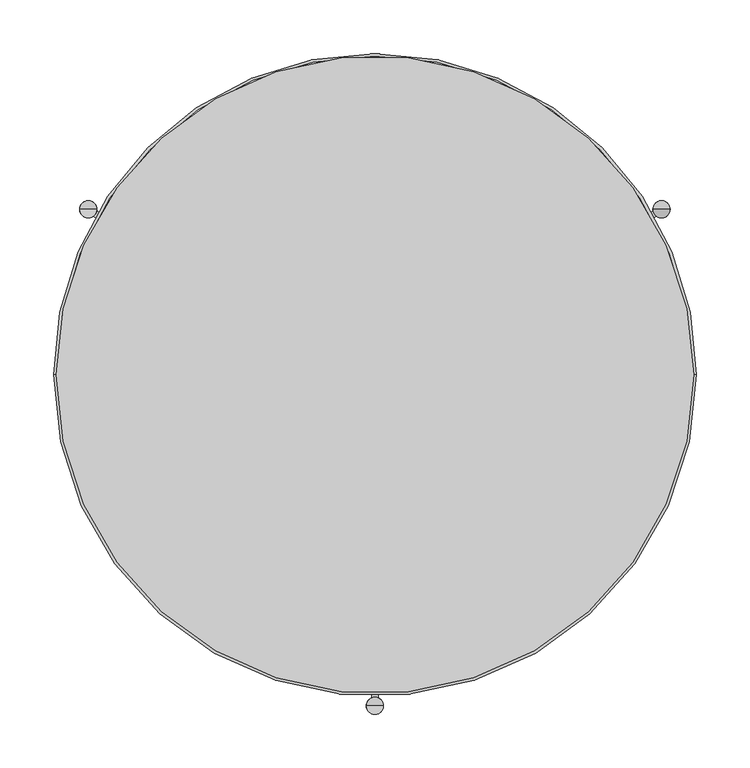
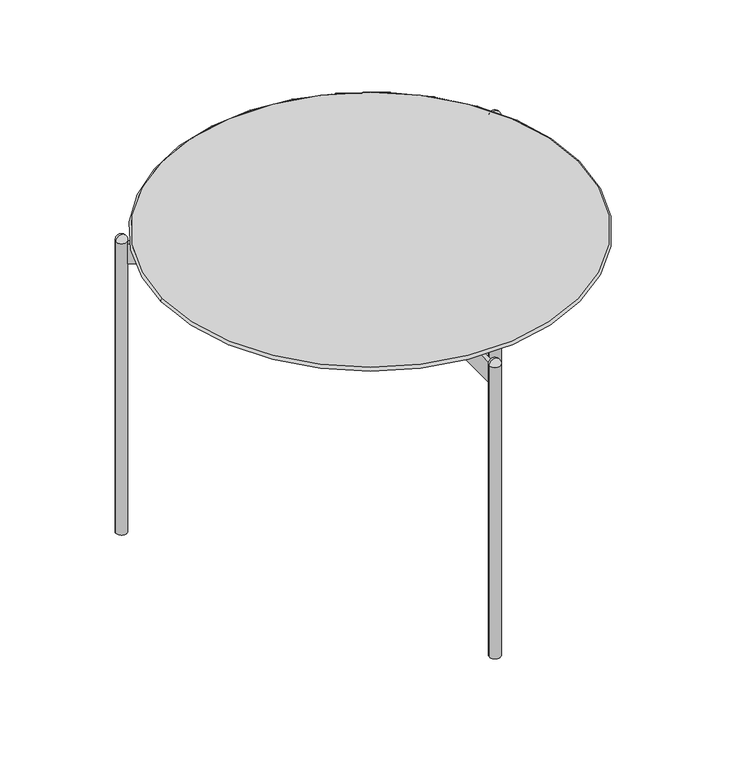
"""IFC4 building model written with IfcOpenShell, lengths in millimetres: furniture geometry, ROUND TABLE_H=45 : EI145B050060A_L."""

import ifcopenshell
import ifcopenshell.guid

model = None  # the IFC model being written
_history = None  # IfcOwnerHistory: only IFC2X3 demands one
_inside = {}  # id of a spatial element -> (the spatial element, [elements in it])
_under = {}  # id of a project, library or spatial element -> (it, [spatial elements below it])
_declared = {}  # id of a project -> (the project, [libraries it declares])
_typed = {}  # id of a type object -> (the type object, [elements of that type])
_made_of = {}  # id of a material, layer set ... -> (it, [elements and type objects made of it])


def new_model(schema):
    """Start an empty IFC model of exactly this schema.

    Asked for "IFC4X3", IfcOpenShell would pick the latest addendum, in which some entities
    have other attributes; the version numbers below select the first issue.
    IFC2X3 requires an IfcOwnerHistory on every rooted entity: one is made here for all.
    """
    global model, _history
    if schema == "IFC4X3":
        model = ifcopenshell.file(schema_version=(4, 3, 0, 0))
    else:
        model = ifcopenshell.file(schema=schema)
    _inside.clear()
    _under.clear()
    _declared.clear()
    _typed.clear()
    _made_of.clear()
    _history = None
    if model.schema == "IFC2X3":
        org = make("IfcOrganization", Name="unknown")
        user = make(
            "IfcPersonAndOrganization",
            ThePerson=make("IfcPerson", FamilyName="unknown"),
            TheOrganization=org,
        )
        app = make(
            "IfcApplication",
            ApplicationDeveloper=org,
            Version="unknown",
            ApplicationFullName="unknown",
            ApplicationIdentifier="unknown",
        )
        _history = make(
            "IfcOwnerHistory",
            OwningUser=user,
            OwningApplication=app,
            ChangeAction="ADDED",
            CreationDate=0,
        )
    return model


def make(cls, **values):
    """One entity of the class cls with the attributes given. An attribute that is None is left unset."""
    return model.create_entity(
        cls, **{name: value for name, value in values.items() if value is not None}
    )


def rooted(cls, **values):
    """An entity with a GlobalId (a new one), such as an element, a storey or a relation."""
    return make(cls, GlobalId=ifcopenshell.guid.new(), OwnerHistory=_history, **values)


def si_unit(unit_type, name, prefix=None):
    """IfcSIUnit, for example si_unit("LENGTHUNIT", "METRE", prefix="MILLI")."""
    return make("IfcSIUnit", UnitType=unit_type, Prefix=prefix, Name=name)


def assignment(units):
    """IfcUnitAssignment: the units of a project."""
    return None if units is None else make("IfcUnitAssignment", Units=units)


def point(xyz):
    """IfcCartesianPoint."""
    return None if xyz is None else make("IfcCartesianPoint", Coordinates=xyz)


def direction(xyz):
    """IfcDirection."""
    return None if xyz is None else make("IfcDirection", DirectionRatios=xyz)


def frame(location, z_axis=None, x_axis=None):
    """IfcAxis2Placement3D, a coordinate frame: its origin and axes. An axis left out is left unset."""
    return make(
        "IfcAxis2Placement3D",
        Location=point(location),
        Axis=direction(z_axis),
        RefDirection=direction(x_axis),
    )


def frame_2d(location, x_axis=None):
    """IfcAxis2Placement2D, a coordinate frame in the plane: its origin and x axis."""
    return make(
        "IfcAxis2Placement2D", Location=point(location), RefDirection=direction(x_axis)
    )


def origin():
    """The frame at (0, 0, 0) with its axes left unset."""
    return frame((0.0, 0.0, 0.0))


def origin_with_axes():
    """The frame at (0, 0, 0) with the z axis (0, 0, 1) and the x axis (1, 0, 0) written out."""
    return frame((0.0, 0.0, 0.0), z_axis=(0.0, 0.0, 1.0), x_axis=(1.0, 0.0, 0.0))


def origin_2d():
    """The frame at (0, 0) in the plane with its x axis left unset."""
    return frame_2d((0.0, 0.0))


def place(relative_to, where):
    """IfcLocalPlacement: puts the frame where relative to a parent placement (None: the world)."""
    return make(
        "IfcLocalPlacement", PlacementRelTo=relative_to, RelativePlacement=where
    )


def context(
    kind, dimensions, precision=None, world=None, true_north=None, identifier=None
):
    """IfcGeometricRepresentationContext, for example the 3D "Model" context."""
    return make(
        "IfcGeometricRepresentationContext",
        ContextIdentifier=identifier,
        ContextType=kind,
        CoordinateSpaceDimension=dimensions,
        Precision=precision,
        WorldCoordinateSystem=world,
        TrueNorth=true_north,
    )


def project(units=None, contexts=None):
    """IfcProject with its units and contexts."""
    return rooted(
        "IfcProject",
        Name="project",
        RepresentationContexts=contexts,
        UnitsInContext=assignment(units),
    )


def spatial(cls, under=None, at=None, **own):
    """A site, building, storey or space (cls), placed at a placement, below another one or the project."""
    s = rooted(cls, ObjectPlacement=at, **own)
    if under is not None:
        _under.setdefault(under.id(), (under, []))[1].append(s)
    return s


def polyline(points):
    """IfcPolyline through the points."""
    return make("IfcPolyline", Points=[point(p) for p in points])


def circle_curve(where, radius):
    """IfcCircle in the frame where."""
    return make("IfcCircle", Position=where, Radius=radius)


def ellipse_curve(where, semi_axis1, semi_axis2):
    """IfcEllipse in the frame where."""
    return make(
        "IfcEllipse", Position=where, SemiAxis1=semi_axis1, SemiAxis2=semi_axis2
    )


def trimmed(basis, trim1, trim2, sense, master):
    """IfcTrimmedCurve: the piece of a basis curve between two trims."""
    return make(
        "IfcTrimmedCurve",
        BasisCurve=basis,
        Trim1=trim1,
        Trim2=trim2,
        SenseAgreement=sense,
        MasterRepresentation=master,
    )


def segment(curve, same_sense, transition):
    """IfcCompositeCurveSegment."""
    return make(
        "IfcCompositeCurveSegment",
        Transition=transition,
        SameSense=same_sense,
        ParentCurve=curve,
    )


def composite_curve(segments, self_intersect=None):
    """IfcCompositeCurve: segments joined end to end."""
    return make("IfcCompositeCurve", Segments=segments, SelfIntersect=self_intersect)


def outline(outer, holes=None, kind="AREA"):
    """IfcArbitraryClosedProfileDef: a profile drawn as a closed curve; with holes, ...WithVoids."""
    if holes is None:
        return make("IfcArbitraryClosedProfileDef", ProfileType=kind, OuterCurve=outer)
    return make(
        "IfcArbitraryProfileDefWithVoids",
        ProfileType=kind,
        OuterCurve=outer,
        InnerCurves=holes,
    )


def extrude(swept, where, along, depth):
    """IfcExtrudedAreaSolid: the profile swept, set in the frame where, extruded along a direction by depth."""
    return make(
        "IfcExtrudedAreaSolid",
        SweptArea=swept,
        Position=where,
        ExtrudedDirection=direction(along),
        Depth=depth,
    )


def shape(context_of_items, identifier, shape_type, items):
    """IfcShapeRepresentation: the items that make up one representation, for example the "Body"."""
    return make(
        "IfcShapeRepresentation",
        ContextOfItems=context_of_items,
        RepresentationIdentifier=identifier,
        RepresentationType=shape_type,
        Items=items,
    )


def source(mapping_origin, context_of_items, identifier, shape_type, items):
    """IfcRepresentationMap: a shape defined once, which mapped items show again and again."""
    return make(
        "IfcRepresentationMap",
        MappingOrigin=mapping_origin,
        MappedRepresentation=shape(context_of_items, identifier, shape_type, items),
    )


def transform(
    local_origin,
    x_axis=None,
    y_axis=None,
    z_axis=None,
    scale=None,
    scale2=None,
    scale3=None,
    uniform=True,
):
    """IfcCartesianTransformationOperator3D, or its non-uniform kind. x_axis, y_axis, z_axis: its Axis1, 2, 3."""
    if uniform:
        return make(
            "IfcCartesianTransformationOperator3D",
            Axis1=direction(x_axis),
            Axis2=direction(y_axis),
            LocalOrigin=point(local_origin),
            Scale=scale,
            Axis3=direction(z_axis),
        )
    return make(
        "IfcCartesianTransformationOperator3DnonUniform",
        Axis1=direction(x_axis),
        Axis2=direction(y_axis),
        LocalOrigin=point(local_origin),
        Scale=scale,
        Axis3=direction(z_axis),
        Scale2=scale2,
        Scale3=scale3,
    )


def mapped(mapping_source, mapping_target):
    """IfcMappedItem: shows the shape of a source again, moved by a transform."""
    return make(
        "IfcMappedItem", MappingSource=mapping_source, MappingTarget=mapping_target
    )


def made_of(thing, what):
    """Note that an element or type object is made of a material, layer set ...; save() writes the relation."""
    if what is not None:
        _made_of.setdefault(what.id(), (what, []))[1].append(thing)
    return thing


def element(
    cls,
    number,
    at=None,
    inside=None,
    cuts=None,
    type_object=None,
    material=None,
    context=None,
    identifier="Body",
    shape_type=None,
    held_by="IfcProductDefinitionShape",
    body=None,
    shapes=None,
    **own,
):
    """One element of the class cls, such as IfcWall. Its Tag is "e" and its number.

    at: its placement. inside: the storey or other place that contains it. cuts: it is an
    opening in that element (IfcRelVoidsElement). A single representation is given by context,
    identifier, shape_type and body (its items); several are given by shapes. held_by: the class
    of the entity that holds the representations. save() writes the other relations.
    """
    e = rooted(cls, Tag="e%d" % number, ObjectPlacement=at, **own)
    if body is not None:
        shapes = [shape(context, identifier, shape_type, body)]
    if shapes is not None:
        e.Representation = make(held_by, Representations=shapes)
    if inside is not None:
        _inside.setdefault(inside.id(), (inside, []))[1].append(e)
    if cuts is not None:
        rooted(
            "IfcRelVoidsElement", RelatingBuildingElement=cuts, RelatedOpeningElement=e
        )
    if type_object is not None:
        _typed.setdefault(type_object.id(), (type_object, []))[1].append(e)
    return made_of(e, material)


def aggregate(whole, parts):
    """IfcRelAggregates: a whole, such as a stair, and the parts it consists of."""
    return rooted("IfcRelAggregates", RelatingObject=whole, RelatedObjects=parts)


def save(model, path):
    """Write the relations noted so far, then the file.

    IfcRelAggregates (storeys below a building ...), IfcRelContainedInSpatialStructure (elements
    in a storey), IfcRelDefinesByType, IfcRelAssociatesMaterial and IfcRelDeclares: one each for
    every whole, place, type object, material and project.
    """
    for whole, parts in _under.values():
        aggregate(whole, parts)
    for where, things in _inside.values():
        rooted(
            "IfcRelContainedInSpatialStructure",
            RelatedElements=things,
            RelatingStructure=where,
        )
    for kind, things in _typed.values():
        rooted("IfcRelDefinesByType", RelatedObjects=things, RelatingType=kind)
    for what, things in _made_of.values():
        rooted("IfcRelAssociatesMaterial", RelatedObjects=things, RelatingMaterial=what)
    for by, libraries in _declared.values():
        rooted("IfcRelDeclares", RelatingContext=by, RelatedDefinitions=libraries)
    model.write(path)


def plane_surface(at):
    """IfcPlane: the flat surface through the origin of the frame at, square to its z axis."""
    return make("IfcPlane", Position=at)


def revolved_surface(curve, axis_point, axis_direction):
    """IfcSurfaceOfRevolution: the curve turned about the line through axis_point along axis_direction."""
    return make(
        "IfcSurfaceOfRevolution",
        SweptCurve=make("IfcArbitraryOpenProfileDef", ProfileType="CURVE", Curve=curve),
        AxisPosition=make("IfcAxis1Placement", Location=point(axis_point), Axis=direction(axis_direction)),
    )


def advanced_brep(points, edges, surfaces, faces):
    """IfcAdvancedBrep: a solid bounded by faces that lie on surfaces and meet in shared edges.

    An edge is (start, end): straight between two places in points (the first is 0);
    or (start, end, curve); or (start, end, curve, False) where it runs against its curve.
    A face is (place in surfaces, loops), or (place, loops, False) where it looks against
    its surface's normal. A loop lists edges by number (the first is 1), with a minus sign
    where the edge is run from its end to its start. The first loop is the outer one.
    """
    corners = [point(p) for p in points]
    vertices = [make("IfcVertexPoint", VertexGeometry=c) for c in corners]
    made = []
    for start, end, *more in edges:
        made.append(
            make(
                "IfcEdgeCurve",
                EdgeStart=vertices[start],
                EdgeEnd=vertices[end],
                EdgeGeometry=more[0] if more else make("IfcPolyline", Points=[corners[start], corners[end]]),
                SameSense=more[1] if len(more) > 1 else True,
            )
        )
    hull = []
    for where, loops, *sense in faces:
        bounds = []
        for j, loop in enumerate(loops):
            ring = [make("IfcOrientedEdge", EdgeElement=made[abs(k) - 1], Orientation=k > 0) for k in loop]
            bounds.append(
                make(
                    "IfcFaceOuterBound" if j == 0 else "IfcFaceBound",
                    Bound=make("IfcEdgeLoop", EdgeList=ring),
                    Orientation=True,
                )
            )
        hull.append(make("IfcAdvancedFace", Bounds=bounds, FaceSurface=surfaces[where], SameSense=sense[0] if sense else True))
    return make("IfcAdvancedBrep", Outer=make("IfcClosedShell", CfsFaces=hull))


def furniture_a62885bd(model_context):
    return source(origin(), model_context, "Body", "SolidModel", [
        advanced_brep(
        [(-297.5, 0.0, 456.6939464), (297.5, 0.0, 456.6939464), (271.7931495, 0.0, 437.6939464), (-271.7931495, 0.0, 437.6939464), (-298.6736789, 0.0, 451.9865774), (298.6736789, 0.0, 451.9865774), (300.0, 0.0, 454.1939714), (-300.0, 0.0, 454.1939716)],
        [
            (0, 1, circle_curve(frame((0.0, 0.0, 456.6939464), z_axis=(0.0, 0.0, 1.0), x_axis=(-1.0, 0.0, 0.0)), 297.5)),
            (1, 0, circle_curve(frame((0.0, 0.0, 456.6939464), z_axis=(0.0, 0.0, 1.0), x_axis=(1.0, 0.0, 0.0)), 297.5)),
            (2, 3, circle_curve(frame((0.0, 0.0, 437.6939464), z_axis=(0.0, 0.0, -1.0), x_axis=(-1.0, 0.0, 0.0)), 271.7931495)),
            (3, 2, circle_curve(frame((0.0, 0.0, 437.6939464), z_axis=(0.0, 0.0, -1.0), x_axis=(1.0, 0.0, 0.0)), 271.7931495)),
            (4, 5, circle_curve(frame((0.0, 0.0, 451.9865774), z_axis=(0.0, 0.0, 1.0), x_axis=(-1.0, 0.0, 0.0)), 298.6736789)),
            (5, 6, circle_curve(frame((297.5, 0.0, 454.1939464), z_axis=(0.0, -1.0, 0.0), x_axis=(-1.0, 0.0, 0.0)), 2.5)),
            (6, 1, circle_curve(frame((297.5, 0.0, 454.1939464), z_axis=(0.0, -1.0, 0.0), x_axis=(-1.0, 0.0, 0.0)), 2.5)),
            (0, 7, circle_curve(frame((-297.5, 0.0, 454.1939464), z_axis=(0.0, -1.0, 0.0), x_axis=(1.0, 0.0, 0.0)), 2.5)),
            (7, 4, circle_curve(frame((-297.5, 0.0, 454.1939464), z_axis=(0.0, -1.0, 0.0), x_axis=(1.0, 0.0, 0.0)), 2.5)),
            (4, 3),
            (2, 5),
            (5, 4, circle_curve(frame((0.0, 0.0, 451.9865774), z_axis=(0.0, 0.0, 1.0), x_axis=(1.0, 0.0, 0.0)), 298.6736789)),
        ],
        [
            plane_surface(frame((300.0, 0.0, 456.6939464), z_axis=(0.0, 0.0, 1.0), x_axis=(0.0, 1.0, 0.0))),
            plane_surface(frame((300.0, 0.0, 437.6939464), z_axis=(0.0, 0.0, -1.0), x_axis=(0.0, -1.0, 0.0))),
            revolved_surface(trimmed(ellipse_curve(frame((-297.5, 0.0, 454.1939464), z_axis=(0.0, 1.0, 0.0), x_axis=(1.0, 0.0, 0.0)), 2.5, 2.5), [point((-298.6736789, 0.0, 451.9865774))], [point((-297.5, 0.0, 456.6939464))], True, "CARTESIAN"), (0.0, 0.0, 437.6939464), (0.0, 0.0, 1.0)),
            revolved_surface(polyline([(-271.7931495, 0.0, 437.6939464), (-298.6736789, 0.0, 451.9865774)]), (0.0, 0.0, 437.6939464), (0.0, 0.0, 1.0)),
            revolved_surface(trimmed(ellipse_curve(frame((297.5, 0.0, 454.1939464), z_axis=(0.0, -1.0, 0.0), x_axis=(-1.0, 0.0, 0.0)), 2.5, 2.5), [point((298.6736789, 0.0, 451.9865774))], [point((297.5, 0.0, 456.6939464))], True, "CARTESIAN"), (0.0, 0.0, 437.6939464), (0.0, 0.0, 1.0)),
            revolved_surface(polyline([(271.7931495, 0.0, 437.6939464), (298.6736789, 0.0, 451.9865774)]), (0.0, 0.0, 437.6939464), (0.0, 0.0, 1.0)),
        ],
        [
            (0, [[1, 2]]),
            (1, [[3, 4]]),
            (2, [[5, 6, 7, -1, 8, 9]]),
            (3, [[-5, 10, -3, 11]]),
            (4, [[12, -9, -8, -2, -7, -6]]),
            (5, [[-11, -4, -10, -12]]),
        ],
    ),
        extrude(outline(composite_curve([segment(polyline([(-19.7129166, 7.9278768), (-262.7443334, 148.2421307)]), True, "CONTINUOUS"), segment(trimmed(circle_curve(frame_2d((-267.6, 154.6)), 8.0), [point((-262.7443334, 148.2421307))], [point((-259.6895089, 153.4066303))], True, "CARTESIAN"), True, "CONTINUOUS"), segment(polyline([(-259.6895089, 153.4066303), (-16.7129166, 13.1240293), (-19.7129166, 7.9278768)]), True, "CONTINUOUS")], self_intersect=False)), frame((0.0, 0.0, 407.6939464), z_axis=(0.0, 0.0, 1.0), x_axis=(1.0, 0.0, 0.0)), (0.0, 0.0, 1.0), 30.0),
        extrude(outline(composite_curve([segment(polyline([(19.7314855, 7.9171561), (16.7314855, 13.1133085), (259.6925075, 153.38692)]), True, "CONTINUOUS"), segment(trimmed(circle_curve(frame_2d((267.6, 154.6)), 8.0), [point((259.6925075, 153.38692))], [point((262.7603454, 148.2299338))], True, "CARTESIAN"), True, "CONTINUOUS"), segment(polyline([(262.7603454, 148.2299338), (19.7314855, 7.9171561)]), True, "CONTINUOUS")], self_intersect=False)), frame((0.0, 0.0, 407.6939464), z_axis=(0.0, 0.0, 1.0), x_axis=(1.0, 0.0, 0.0)), (0.0, 0.0, 1.0), 30.0),
        extrude(outline(composite_curve([segment(polyline([(3.0, -21.0411853), (3.0, -301.5838015)]), True, "CONTINUOUS"), segment(trimmed(circle_curve(frame_2d((0.0, -309.0)), 8.0), [point((3.0, -301.5838015))], [point((-3.0, -301.5838015))], True, "CARTESIAN"), True, "CONTINUOUS"), segment(polyline([(-3.0, -301.5838015), (-3.0, -21.0411853), (3.0, -21.0411853)]), True, "CONTINUOUS")], self_intersect=False)), frame((0.0, 0.0, 407.6939464), z_axis=(0.0, 0.0, 1.0), x_axis=(1.0, 0.0, 0.0)), (0.0, 0.0, 1.0), 30.0),
        advanced_brep(
        [(267.6, 154.6, 449.1666667), (259.6, 154.6, 441.1666667), (275.6, 154.6, 441.1666667), (267.6, 154.6, 441.1666667)],
        [
            (0, 1, circle_curve(frame((267.6, 154.6, 441.1666667), z_axis=(0.0, -1.0, 0.0), x_axis=(1.0, 0.0, 0.0)), 8.0)),
            (1, 2, circle_curve(frame((267.6, 154.6, 441.1666667), z_axis=(0.0, 0.0, 1.0), x_axis=(-1.0, 0.0, 0.0)), 8.0)),
            (2, 0, circle_curve(frame((267.6, 154.6, 441.1666667), z_axis=(0.0, -1.0, 0.0), x_axis=(-1.0, 0.0, 0.0)), 8.0)),
            (2, 1, circle_curve(frame((267.6, 154.6, 441.1666667), z_axis=(0.0, 0.0, 1.0), x_axis=(-1.0, 0.0, 0.0)), 8.0)),
            (1, 3),
            (3, 2),
        ],
        [
            revolved_surface(trimmed(ellipse_curve(frame((267.6, 154.6, 441.1666667), z_axis=(0.0, 1.0, 0.0), x_axis=(1.0, 0.0, 0.0)), 8.0, 8.0), [point((259.6, 154.6, 441.1666667))], [point((267.6, 154.6, 449.1666667))], True, "CARTESIAN"), (267.6, 154.6, 2638.4), (0.0, 0.0, 1.0)),
            plane_surface(frame((267.6, 154.6, 441.1666667), z_axis=(0.0, 0.0, -1.0), x_axis=(-1.0, 0.0, 0.0))),
        ],
        [
            (0, [[1, 2, 3]]),
            (0, [[-3, 4, -1]]),
            (1, [[-2, 5, 6]]),
            (1, [[-4, -6, -5]]),
        ],
    ),
        advanced_brep(
        [(267.6, 154.6, 449.1666667), (259.6, 154.6, 441.1666667), (275.6, 154.6, 441.1666667), (267.6, 154.6, 441.1666667)],
        [
            (0, 1, circle_curve(frame((267.6, 154.6, 441.1666667), z_axis=(0.0, -1.0, 0.0), x_axis=(1.0, 0.0, 0.0)), 8.0)),
            (1, 2, circle_curve(frame((267.6, 154.6, 441.1666667), z_axis=(0.0, 0.0, 1.0), x_axis=(-1.0, 0.0, 0.0)), 8.0)),
            (2, 0, circle_curve(frame((267.6, 154.6, 441.1666667), z_axis=(0.0, -1.0, 0.0), x_axis=(-1.0, 0.0, 0.0)), 8.0)),
            (2, 1, circle_curve(frame((267.6, 154.6, 441.1666667), z_axis=(0.0, 0.0, 1.0), x_axis=(-1.0, 0.0, 0.0)), 8.0)),
            (1, 3),
            (3, 2),
        ],
        [
            revolved_surface(trimmed(ellipse_curve(frame((267.6, 154.6, 441.1666667), z_axis=(0.0, 1.0, 0.0), x_axis=(1.0, 0.0, 0.0)), 8.0, 8.0), [point((259.6, 154.6, 441.1666667))], [point((267.6, 154.6, 449.1666667))], True, "CARTESIAN"), (267.6, 154.6, 2638.4), (0.0, 0.0, 1.0)),
            plane_surface(frame((267.6, 154.6, 441.1666667), z_axis=(0.0, 0.0, -1.0), x_axis=(-1.0, 0.0, 0.0))),
        ],
        [
            (0, [[1, 2, 3]]),
            (0, [[-3, 4, -1]]),
            (1, [[-2, 5, 6]]),
            (1, [[-4, -6, -5]]),
        ],
    ),
        advanced_brep(
        [(-275.6, 154.6, 441.1666667), (-259.6, 154.6, 441.1666667), (-267.6, 154.6, 449.1666667), (-267.6, 154.6, 441.1666667)],
        [
            (0, 1, circle_curve(frame((-267.6, 154.6, 441.1666667), z_axis=(0.0, 0.0, 1.0), x_axis=(1.0, 0.0, 0.0)), 8.0)),
            (1, 2, circle_curve(frame((-267.6, 154.6, 441.1666667), z_axis=(0.0, -1.0, 0.0), x_axis=(-1.0, 0.0, 0.0)), 8.0)),
            (2, 0, circle_curve(frame((-267.6, 154.6, 441.1666667), z_axis=(0.0, -1.0, 0.0), x_axis=(1.0, 0.0, 0.0)), 8.0)),
            (1, 0, circle_curve(frame((-267.6, 154.6, 441.1666667), z_axis=(0.0, 0.0, 1.0), x_axis=(1.0, 0.0, 0.0)), 8.0)),
            (3, 1),
            (0, 3),
        ],
        [
            revolved_surface(trimmed(ellipse_curve(frame((-267.6, 154.6, 441.1666667), z_axis=(0.0, 1.0, 0.0), x_axis=(-1.0, 0.0, 0.0)), 8.0, 8.0), [point((-267.6, 154.6, 449.1666667))], [point((-259.6, 154.6, 441.1666667))], True, "CARTESIAN"), (-267.6, 154.6, 2638.4), (0.0, 0.0, -1.0)),
            plane_surface(frame((-267.6, 154.6, 441.1666667), z_axis=(0.0, 0.0, -1.0), x_axis=(1.0, 0.0, 0.0))),
        ],
        [
            (0, [[1, 2, 3]]),
            (0, [[4, -3, -2]]),
            (1, [[5, -1, 6]]),
            (1, [[-6, -4, -5]]),
        ],
    ),
        advanced_brep(
        [(-8.025371, -309.0, 441.1666667), (7.974629, -309.0, 441.1666667), (-0.025371, -309.0, 449.1666667), (-0.025371, -309.0, 441.1666667)],
        [
            (0, 1, circle_curve(frame((-0.025371, -309.0, 441.1666667), z_axis=(0.0, 0.0, 1.0), x_axis=(1.0, 0.0, 0.0)), 8.0)),
            (1, 2, circle_curve(frame((-0.025371, -309.0, 441.1666667), z_axis=(0.0, -1.0, 0.0), x_axis=(-1.0, 0.0, 0.0)), 8.0)),
            (2, 0, circle_curve(frame((-0.025371, -309.0, 441.1666667), z_axis=(0.0, -1.0, 0.0), x_axis=(1.0, 0.0, 0.0)), 8.0)),
            (1, 0, circle_curve(frame((-0.025371, -309.0, 441.1666667), z_axis=(0.0, 0.0, 1.0), x_axis=(1.0, 0.0, 0.0)), 8.0)),
            (3, 1),
            (0, 3),
        ],
        [
            revolved_surface(trimmed(ellipse_curve(frame((-0.025371, -309.0, 441.1666667), z_axis=(0.0, 1.0, 0.0), x_axis=(-1.0, 0.0, 0.0)), 8.0, 8.0), [point((-0.025371, -309.0, 449.1666667))], [point((7.974629, -309.0, 441.1666667))], True, "CARTESIAN"), (-0.025371, -309.0, 2638.4), (0.0, 0.0, -1.0)),
            plane_surface(frame((-0.025371, -309.0, 441.1666667), z_axis=(0.0, 0.0, -1.0), x_axis=(1.0, 0.0, 0.0))),
        ],
        [
            (0, [[1, 2, 3]]),
            (0, [[4, -3, -2]]),
            (1, [[5, -1, 6]]),
            (1, [[-6, -4, -5]]),
        ],
    ),
        extrude(outline(composite_curve([segment(trimmed(circle_curve(origin_2d(), 23.0), [point((-23.0, 0.0))], [point((23.0, 0.0))], False, "CARTESIAN"), True, "CONTINUOUS"), segment(trimmed(circle_curve(origin_2d(), 23.0), [point((23.0, 0.0))], [point((-23.0, 0.0))], False, "CARTESIAN"), True, "CONTINUOUS")], self_intersect=False)), frame((0.0, 0.0, 407.6939464), z_axis=(0.0, 0.0, 1.0), x_axis=(1.0, 0.0, 0.0)), (0.0, 0.0, 1.0), 30.0),
        extrude(outline(composite_curve([segment(trimmed(circle_curve(frame_2d((-267.6, 154.6)), 8.0), [point((-275.6, 154.6))], [point((-259.6, 154.6))], False, "CARTESIAN"), True, "CONTINUOUS"), segment(trimmed(circle_curve(frame_2d((-267.6, 154.6)), 8.0), [point((-259.6, 154.6))], [point((-275.6, 154.6))], False, "CARTESIAN"), True, "CONTINUOUS")], self_intersect=False)), origin_with_axes(), (0.0, 0.0, 1.0), 441.1666667),
        extrude(outline(composite_curve([segment(trimmed(circle_curve(frame_2d((267.6, 154.6)), 8.0), [point((259.6, 154.6))], [point((275.6, 154.6))], False, "CARTESIAN"), True, "CONTINUOUS"), segment(trimmed(circle_curve(frame_2d((267.6, 154.6)), 8.0), [point((275.6, 154.6))], [point((259.6, 154.6))], False, "CARTESIAN"), True, "CONTINUOUS")], self_intersect=False)), origin_with_axes(), (0.0, 0.0, 1.0), 441.1666667),
        extrude(outline(composite_curve([segment(trimmed(circle_curve(frame_2d((0.0, -309.0)), 8.0), [point((-8.0, -309.0))], [point((8.0, -309.0))], False, "CARTESIAN"), True, "CONTINUOUS"), segment(trimmed(circle_curve(frame_2d((0.0, -309.0)), 8.0), [point((8.0, -309.0))], [point((-8.0, -309.0))], False, "CARTESIAN"), True, "CONTINUOUS")], self_intersect=False)), origin_with_axes(), (0.0, 0.0, 1.0), 441.1666667),
    ])


if __name__ == "__main__":
    model = new_model("IFC4")
    model_context = context("Model", 3, world=origin())
    ifc_project = project(units=[si_unit("LENGTHUNIT", "METRE", prefix="MILLI")], contexts=[model_context])
    site = spatial("IfcSite", under=ifc_project)
    building = spatial("IfcBuilding", under=site)
    placement = place(None, origin())
    furniture_shape = furniture_a62885bd(model_context)
    element("IfcFurniture", 1, ObjectType="ROUND TABLE_H=45 : EI145B050060A_L", at=placement, inside=building, context=model_context, shape_type="MappedRepresentation", body=[
        mapped(furniture_shape, transform((0.0, 0.0, 0.0), x_axis=(1.0, 0.0, 0.0), y_axis=(0.0, 1.0, 0.0), z_axis=(0.0, 0.0, 1.0))),
    ])
    save(model, "model.ifc")
